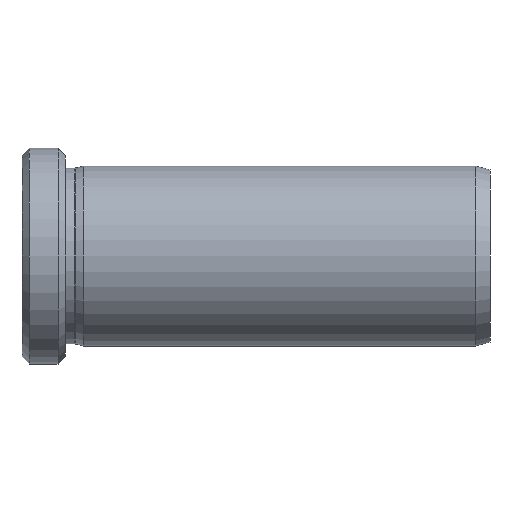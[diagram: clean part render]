
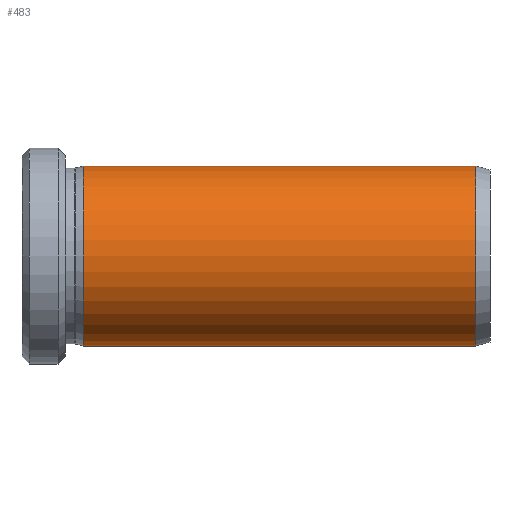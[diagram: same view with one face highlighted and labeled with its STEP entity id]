
A CAD part, front view. The second image highlights one B-rep face of the part: STEP entity #483.
In plain terms, the highlighted cylindrical face has radius 12.5 mm (diameter 25 mm), a partial arc.
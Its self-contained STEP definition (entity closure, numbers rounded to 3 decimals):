
#1 = AXIS2_PLACEMENT_3D ( 'NONE', #337, #224, #172 ) ;
#94 = LINE ( 'NONE', #293, #513 ) ;
#97 = CARTESIAN_POINT ( 'NONE',  ( 19.3, 0., -12.5 ) ) ;
#99 = VERTEX_POINT ( 'NONE', #377 ) ;
#115 = ORIENTED_EDGE ( 'NONE', *, *, #399, .F. ) ;
#172 = DIRECTION ( 'NONE',  ( 0., 0., 1. ) ) ;
#224 = DIRECTION ( 'NONE',  ( -1., 0., 0. ) ) ;
#235 = VERTEX_POINT ( 'NONE', #601 ) ;
#238 = VERTEX_POINT ( 'NONE', #97 ) ;
#243 = ORIENTED_EDGE ( 'NONE', *, *, #545, .T. ) ;
#245 = EDGE_CURVE ( 'NONE', #252, #99, #561, .T. ) ;
#252 = VERTEX_POINT ( 'NONE', #436 ) ;
#293 = CARTESIAN_POINT ( 'NONE',  ( 0., 0., -12.5 ) ) ;
#337 = CARTESIAN_POINT ( 'NONE',  ( 19.3, 0., 0. ) ) ;
#358 = ORIENTED_EDGE ( 'NONE', *, *, #408, .F. ) ;
#370 = CARTESIAN_POINT ( 'NONE',  ( 0., 0., 0. ) ) ;
#377 = CARTESIAN_POINT ( 'NONE',  ( 19.3, 0., 12.5 ) ) ;
#384 = CARTESIAN_POINT ( 'NONE',  ( 0., 0., 12.5 ) ) ;
#399 = EDGE_CURVE ( 'NONE', #238, #99, #659, .T. ) ;
#405 = EDGE_LOOP ( 'NONE', ( #358, #243, #521, #115 ) ) ;
#408 = EDGE_CURVE ( 'NONE', #235, #238, #94, .T. ) ;
#416 = CIRCLE ( 'NONE', #712, 12.5 ) ;
#429 = DIRECTION ( 'NONE',  ( -1., 0., 0. ) ) ;
#436 = CARTESIAN_POINT ( 'NONE',  ( 73.8, 0., 12.5 ) ) ;
#442 = VECTOR ( 'NONE', #429, 1000. ) ;
#457 = CYLINDRICAL_SURFACE ( 'NONE', #672, 12.5 ) ;
#472 = FACE_OUTER_BOUND ( 'NONE', #405, .T. ) ;
#483 = ADVANCED_FACE ( 'NONE', ( #472 ), #457, .T. ) ;
#509 = DIRECTION ( 'NONE',  ( -1., 0., 0. ) ) ;
#513 = VECTOR ( 'NONE', #509, 1000. ) ;
#521 = ORIENTED_EDGE ( 'NONE', *, *, #245, .T. ) ;
#539 = DIRECTION ( 'NONE',  ( -1., 0., 0. ) ) ;
#545 = EDGE_CURVE ( 'NONE', #235, #252, #416, .T. ) ;
#560 = DIRECTION ( 'NONE',  ( 0., 0., 1. ) ) ;
#561 = LINE ( 'NONE', #384, #442 ) ;
#601 = CARTESIAN_POINT ( 'NONE',  ( 73.8, 0., -12.5 ) ) ;
#659 = CIRCLE ( 'NONE', #1, 12.5 ) ;
#672 = AXIS2_PLACEMENT_3D ( 'NONE', #370, #539, #560 ) ;
#710 = DIRECTION ( 'NONE',  ( 0., 0., 1. ) ) ;
#712 = AXIS2_PLACEMENT_3D ( 'NONE', #722, #718, #710 ) ;
#718 = DIRECTION ( 'NONE',  ( -1., 0., 0. ) ) ;
#722 = CARTESIAN_POINT ( 'NONE',  ( 73.8, 0., 0. ) ) ;
